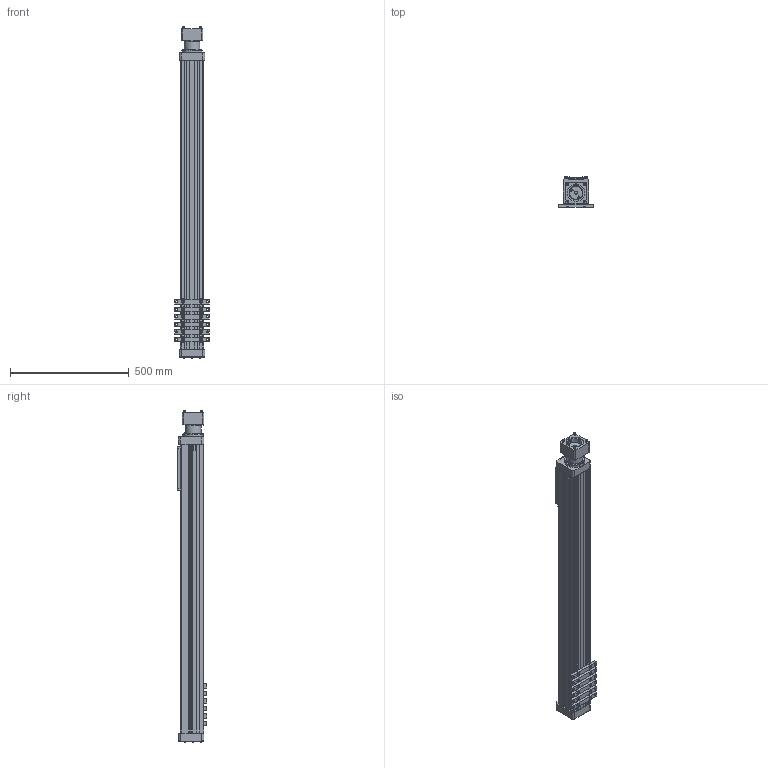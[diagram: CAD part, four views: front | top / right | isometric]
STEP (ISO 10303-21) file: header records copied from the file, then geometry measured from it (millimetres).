
FILE_DESCRIPTION (( 'STEP AP203' ), '1' );
FILE_NAME ('B3S20_BN02_SK40.000_B3S-496237-1.step', '2025-08-28T13:34:52', ( '' ), ( '' ), 'SwSTEP 2.0', 'SolidWorks 2024', '' );
FILE_SCHEMA (( 'CONFIG_CONTROL_DESIGN' ));
Length unit declared in the file: inch
Products named in the file (6): B3S20_BN02_SK40.000_B3S-496237-1; tempJoin0_45109055_B3S20_BN02_SK40.000_B3S-496237-1; 34209070_B3S20_BN02_SK40.000_B3S-496237-1; tempJoin0_05209214_B3S20_BN02_SK40.000_B3S-496237-1; Base_B3S20_BN02_SK40.000_B3S-496237-1; 34209056_B3S20_BN02_SK40.000_B3S-496237-1
Assembly tree (10 placements, depth 2):
  B3S20_BN02_SK40.000_B3S-496237-1
    34209070_B3S20_BN02_SK40.000_B3S-496237-1
    34209056_B3S20_BN02_SK40.000_B3S-496237-1  x6
    tempJoin0_45109055_B3S20_BN02_SK40.000_B3S-496237-1
    tempJoin0_05209214_B3S20_BN02_SK40.000_B3S-496237-1
    Base_B3S20_BN02_SK40.000_B3S-496237-1
Bounding box: 144.48 x 125.5 x 1400.45 mm (x, y, z)
Volume: 9819500.8 mm3; surface area: 1444526 mm2
Topology: 14 solids, 37 shells, 1805 faces, 4462 edges, 2949 vertices
Faces by surface type: plane 1178, cylinder 450, cone 83, bspline 62, sphere 20, torus 12
Full cylindrical faces by diameter (mm): 3.454 x1, 3.68 x8, 4 x1, 4.2 x1, 4.201 x4, 4.318 x1, 4.763 x2, 4.768 x2, 4.775 x4, 4.826 x4, 4.976 x8, 5 x8, 5.001 x4, 5.105 x8, 5.69 x4, 6 x4, 6.35 x6, 6.528 x16, 6.858 x8, 7 x1, 7.112 x4, 7.874 x4, 7.937 x3, 8.128 x12, 8.331 x12, 8.5 x4, 8.738 x12, 10 x4, 10.795 x4, 11.1 x4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
Entity records: 45560 total; most frequent: CARTESIAN_POINT 12525, DIRECTION 6507, ORIENTED_EDGE 6358, EDGE_CURVE 3179, VERTEX_POINT 2212, AXIS2_PLACEMENT_3D 2176, VECTOR 2155, LINE 2155
